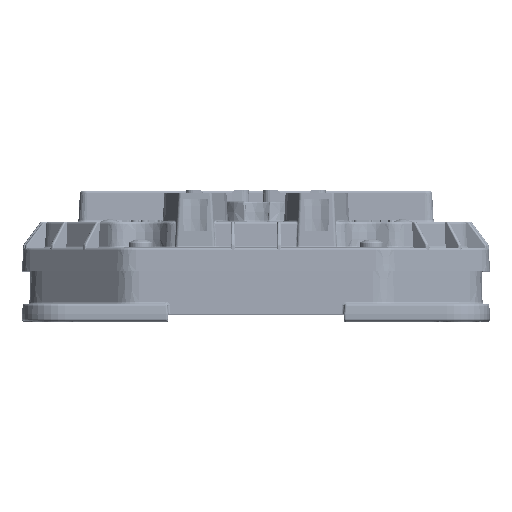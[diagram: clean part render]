
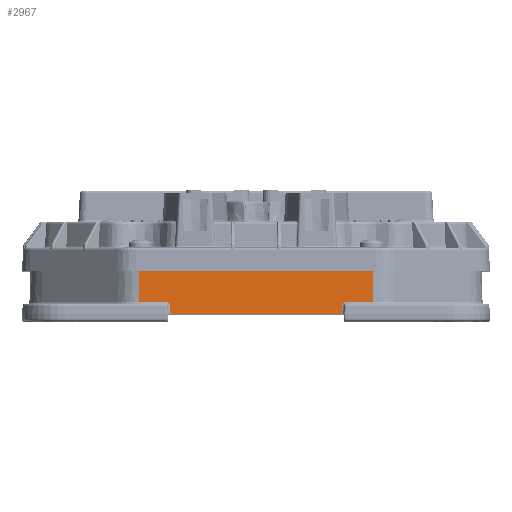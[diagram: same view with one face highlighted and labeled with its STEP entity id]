
A CAD part, top view. The second image highlights one B-rep face of the part: STEP entity #2967.
In plain terms, the highlighted planar face has unit normal (0, 0.035, 0.999).
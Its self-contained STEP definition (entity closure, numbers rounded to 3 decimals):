
#397=CARTESIAN_POINT('',(29.557,0.0,121.076));
#398=VERTEX_POINT('',#397);
#406=CARTESIAN_POINT('',(-29.557,0.0,121.076));
#407=VERTEX_POINT('',#406);
#408=CARTESIAN_POINT('',(-29.557,0.0,121.076));
#409=DIRECTION('',(1.0,0.0,0.0));
#410=VECTOR('',#409,59.115);
#411=LINE('',#408,#410);
#412=EDGE_CURVE('',#407,#398,#411,.T.);
#2269=CARTESIAN_POINT('',(-40.358,16.017,120.517));
#2270=VERTEX_POINT('',#2269);
#2295=CARTESIAN_POINT('',(40.358,16.017,120.517));
#2296=VERTEX_POINT('',#2295);
#2297=CARTESIAN_POINT('',(-40.358,16.017,120.517));
#2298=DIRECTION('',(1.0,0.0,0.0));
#2299=VECTOR('',#2298,80.716);
#2300=LINE('',#2297,#2299);
#2301=EDGE_CURVE('',#2270,#2296,#2300,.T.);
#2866=CARTESIAN_POINT('',(-40.358,4.272,120.927));
#2867=VERTEX_POINT('',#2866);
#2875=CARTESIAN_POINT('',(-40.358,16.017,120.517));
#2876=DIRECTION('',(0.,-0.999,0.035));
#2877=VECTOR('',#2876,11.753);
#2878=LINE('',#2875,#2877);
#2879=EDGE_CURVE('',#2270,#2867,#2878,.T.);
#2885=CARTESIAN_POINT('',(-82.79,16.5,120.5));
#2886=DIRECTION('',(0.0,0.035,0.999));
#2887=DIRECTION('',(1.0,0.0,0.0));
#2888=AXIS2_PLACEMENT_3D('',#2885,#2886,#2887);
#2889=PLANE('',#2888);
#2890=ORIENTED_EDGE('',*,*,#2879,.T.);
#2891=CARTESIAN_POINT('',(-31.397,4.272,120.927));
#2892=VERTEX_POINT('',#2891);
#2893=CARTESIAN_POINT('',(-40.358,4.272,120.927));
#2894=DIRECTION('',(1.,0.,0.));
#2895=VECTOR('',#2894,8.961);
#2896=LINE('',#2893,#2895);
#2897=EDGE_CURVE('',#2867,#2892,#2896,.T.);
#2898=ORIENTED_EDGE('',*,*,#2897,.T.);
#2899=CARTESIAN_POINT('',(-29.803,2.812,120.978));
#2900=VERTEX_POINT('',#2899);
#2901=CARTESIAN_POINT('',(-31.397,4.272,120.927));
#2902=CARTESIAN_POINT('',(-31.19,4.272,120.927));
#2903=CARTESIAN_POINT('',(-30.998,4.235,120.928));
#2904=CARTESIAN_POINT('',(-30.816,4.163,120.931));
#2905=CARTESIAN_POINT('',(-30.634,4.091,120.933));
#2906=CARTESIAN_POINT('',(-30.462,3.985,120.937));
#2907=CARTESIAN_POINT('',(-30.316,3.852,120.942));
#2908=CARTESIAN_POINT('',(-30.17,3.718,120.946));
#2909=CARTESIAN_POINT('',(-30.05,3.556,120.952));
#2910=CARTESIAN_POINT('',(-29.963,3.381,120.958));
#2911=CARTESIAN_POINT('',(-29.876,3.206,120.964));
#2912=CARTESIAN_POINT('',(-29.821,3.018,120.971));
#2913=CARTESIAN_POINT('',(-29.803,2.812,120.978));
#2914=B_SPLINE_CURVE_WITH_KNOTS('',3,(#2901,#2902,#2903,#2904,#2905,#2906,#2907,#2908,#2909,#2910,#2911,#2912,#2913),.UNSPECIFIED.,.F.,.U.,(4,3,3,3,4),(0.0,0.25,0.5,0.75,1.0),.UNSPECIFIED.);
#2915=EDGE_CURVE('',#2892,#2900,#2914,.T.);
#2916=ORIENTED_EDGE('',*,*,#2915,.T.);
#2917=CARTESIAN_POINT('',(-29.803,2.812,120.978));
#2918=DIRECTION('',(0.087,-0.996,0.035));
#2919=VECTOR('',#2918,2.824);
#2920=LINE('',#2917,#2919);
#2921=EDGE_CURVE('',#2900,#407,#2920,.T.);
#2922=ORIENTED_EDGE('',*,*,#2921,.T.);
#2923=ORIENTED_EDGE('',*,*,#412,.T.);
#2924=CARTESIAN_POINT('',(29.803,2.812,120.978));
#2925=VERTEX_POINT('',#2924);
#2926=CARTESIAN_POINT('',(29.557,0.0,121.076));
#2927=DIRECTION('',(0.087,0.996,-0.035));
#2928=VECTOR('',#2927,2.824);
#2929=LINE('',#2926,#2928);
#2930=EDGE_CURVE('',#398,#2925,#2929,.T.);
#2931=ORIENTED_EDGE('',*,*,#2930,.T.);
#2932=CARTESIAN_POINT('',(31.397,4.272,120.927));
#2933=VERTEX_POINT('',#2932);
#2934=CARTESIAN_POINT('',(29.803,2.812,120.978));
#2935=CARTESIAN_POINT('',(29.821,3.017,120.971));
#2936=CARTESIAN_POINT('',(29.875,3.205,120.964));
#2937=CARTESIAN_POINT('',(29.962,3.38,120.958));
#2938=CARTESIAN_POINT('',(30.05,3.555,120.952));
#2939=CARTESIAN_POINT('',(30.17,3.717,120.946));
#2940=CARTESIAN_POINT('',(30.316,3.852,120.942));
#2941=CARTESIAN_POINT('',(30.462,3.986,120.937));
#2942=CARTESIAN_POINT('',(30.634,4.091,120.933));
#2943=CARTESIAN_POINT('',(30.816,4.163,120.931));
#2944=CARTESIAN_POINT('',(30.998,4.234,120.928));
#2945=CARTESIAN_POINT('',(31.19,4.272,120.927));
#2946=CARTESIAN_POINT('',(31.397,4.272,120.927));
#2947=B_SPLINE_CURVE_WITH_KNOTS('',3,(#2934,#2935,#2936,#2937,#2938,#2939,#2940,#2941,#2942,#2943,#2944,#2945,#2946),.UNSPECIFIED.,.F.,.U.,(4,3,3,3,4),(0.0,0.25,0.5,0.75,1.0),.UNSPECIFIED.);
#2948=EDGE_CURVE('',#2925,#2933,#2947,.T.);
#2949=ORIENTED_EDGE('',*,*,#2948,.T.);
#2950=CARTESIAN_POINT('',(40.358,4.272,120.927));
#2951=VERTEX_POINT('',#2950);
#2952=CARTESIAN_POINT('',(31.397,4.272,120.927));
#2953=DIRECTION('',(1.,0.,0.));
#2954=VECTOR('',#2953,8.961);
#2955=LINE('',#2952,#2954);
#2956=EDGE_CURVE('',#2933,#2951,#2955,.T.);
#2957=ORIENTED_EDGE('',*,*,#2956,.T.);
#2958=CARTESIAN_POINT('',(40.358,4.272,120.927));
#2959=DIRECTION('',(0.,0.999,-0.035));
#2960=VECTOR('',#2959,11.753);
#2961=LINE('',#2958,#2960);
#2962=EDGE_CURVE('',#2951,#2296,#2961,.T.);
#2963=ORIENTED_EDGE('',*,*,#2962,.T.);
#2964=ORIENTED_EDGE('',*,*,#2301,.F.);
#2965=EDGE_LOOP('',(#2890,#2898,#2916,#2922,#2923,#2931,#2949,#2957,#2963,#2964));
#2966=FACE_OUTER_BOUND('',#2965,.T.);
#2967=ADVANCED_FACE('',(#2966),#2889,.T.);
